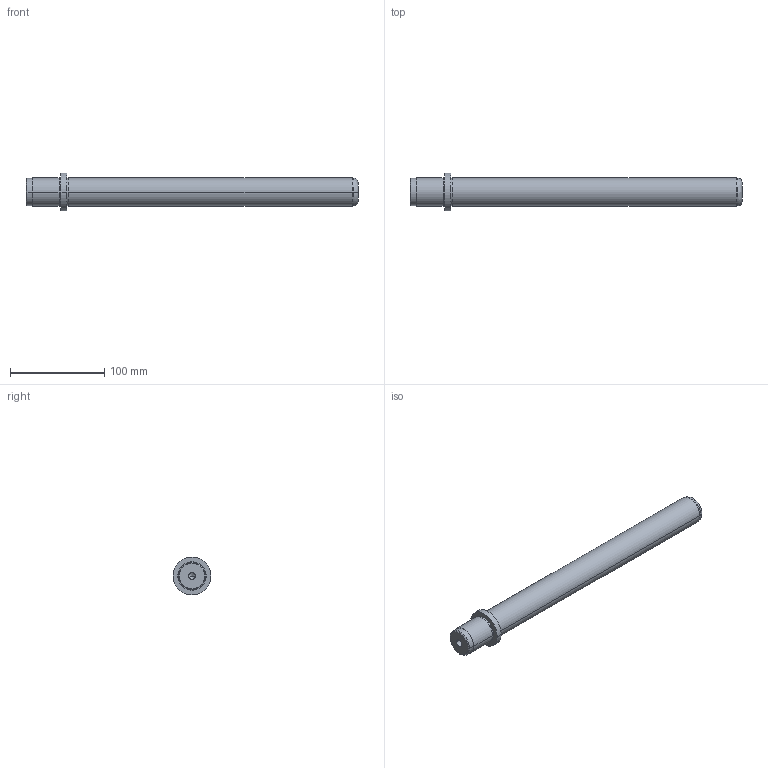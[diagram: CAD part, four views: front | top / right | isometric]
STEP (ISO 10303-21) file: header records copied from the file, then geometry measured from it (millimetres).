
FILE_DESCRIPTION( ( 'STEP AP203' ), '1' );
FILE_NAME( 'D:/Delta 3 D/D00/D00 - 30x315x37.step', '2003-01-02T07:01:10', ( ' ' ), ( ' ' ), 'XStep 1.0', ' ', ' ' );
FILE_SCHEMA( ( 'CONFIG_CONTROL_DESIGN' ) );
Length unit declared in the file: metre
Products named in the file (1): 1
Bounding box: 352 x 40 x 40 mm (x, y, z)
Volume: 249000.3 mm3; surface area: 36917.1 mm2
Topology: 1 solids, 1 shells, 39 faces, 78 edges, 48 vertices
Faces by surface type: revolution 28, bspline 11
Entity records: 1137 total; most frequent: CARTESIAN_POINT 277, DIRECTION 154, ORIENTED_EDGE 152, EDGE_CURVE 76, AXIS2_PLACEMENT_3D 49, EDGE_LOOP 48, VERTEX_POINT 48, CIRCLE 48
